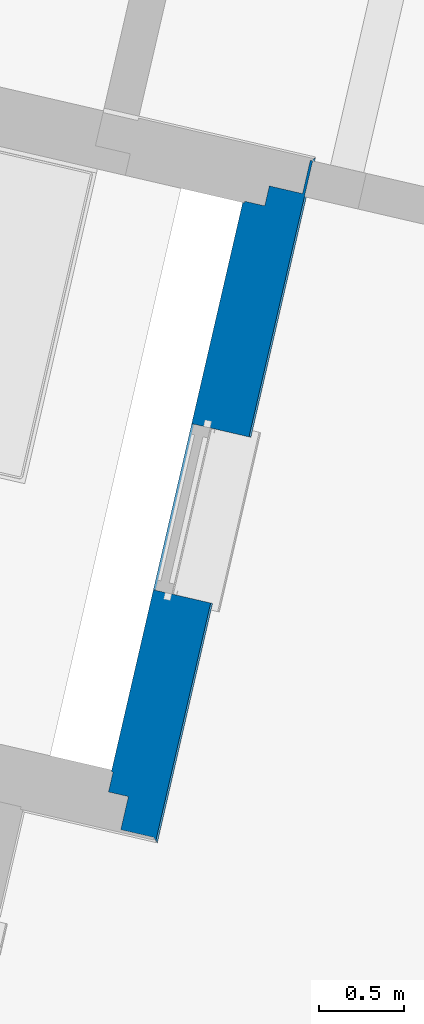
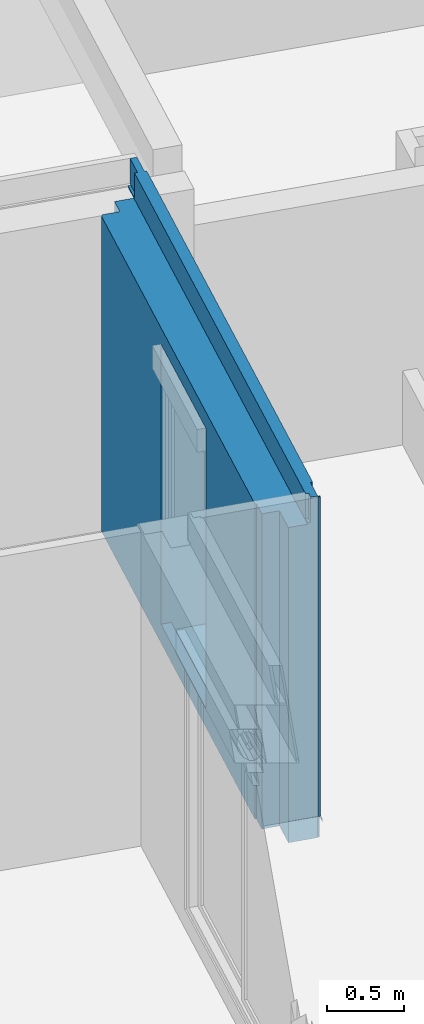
# One storey, part 54 of 119: 1 wall, 1 opening.
"""IFC2X3 building model written with IfcOpenShell, lengths in metres."""

from ifc_helpers import new_model, entity, si_unit, converted_unit, derived_unit, money_unit, direction, frame, origin_with_axes, place, context, subcontext, project, spatial, faceted_brep, material, material_list, type_object, element, save


model = new_model("IFC2X3")

# Units and contexts
model_context = context("Model", 3, precision=1e-05, world=origin_with_axes(), true_north=direction((0.0, 1.0)))
body_context = subcontext(model_context, "Body", "Model", "MODEL_VIEW")
ifc_project = project(units=[si_unit("LENGTHUNIT", "METRE"), si_unit("AREAUNIT", "SQUARE_METRE"), si_unit("VOLUMEUNIT", "CUBIC_METRE"), converted_unit("PLANEANGLEUNIT", "DEGREE", entity("IfcPlaneAngleMeasure", 0.0174532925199), si_unit("PLANEANGLEUNIT", "RADIAN"), dimensions=[0, 0, 0, 0, 0, 0, 0]), si_unit("SOLIDANGLEUNIT", "STERADIAN"), money_unit("EUR"), converted_unit("TIMEUNIT", "Year", entity("IfcTimeMeasure", 31556926.0), si_unit("TIMEUNIT", "SECOND"), dimensions=[0, 0, 1, 0, 0, 0, 0]), si_unit("MASSUNIT", "GRAM", prefix="KILO"), si_unit("THERMODYNAMICTEMPERATUREUNIT", "DEGREE_CELSIUS"), si_unit("LUMINOUSINTENSITYUNIT", "LUMEN"), si_unit("ENERGYUNIT", "JOULE", prefix="MEGA"), derived_unit("THERMALCONDUCTANCEUNIT", [(si_unit("POWERUNIT", "WATT"), 1), (si_unit("LENGTHUNIT", "METRE"), -1), (si_unit("THERMODYNAMICTEMPERATUREUNIT", "KELVIN"), -1)]), derived_unit("SPECIFICHEATCAPACITYUNIT", [(si_unit("ENERGYUNIT", "JOULE"), 1), (si_unit("MASSUNIT", "GRAM", prefix="KILO"), -1), (si_unit("THERMODYNAMICTEMPERATUREUNIT", "KELVIN"), -1)]), derived_unit("MASSDENSITYUNIT", [(si_unit("MASSUNIT", "GRAM", prefix="KILO"), 1), (si_unit("VOLUMEUNIT", "CUBIC_METRE"), -1)])], contexts=[model_context])

# Site, building, storey
site_placement = place(None, origin_with_axes())
site = spatial("IfcSite", under=ifc_project, at=site_placement, Name="Site", CompositionType="ELEMENT")
building_placement = place(site_placement, origin_with_axes())
building = spatial("IfcBuilding", under=site, at=building_placement, Name="Bâtiment", CompositionType="ELEMENT")
storey_placement = place(building_placement, origin_with_axes())
storey = spatial("IfcBuildingStorey", under=building, at=storey_placement, Name="Rez-de-chaussée", CompositionType="ELEMENT", Elevation=0.0)

# Wall, opening
ifc_material_1 = material(Name="Métal - Aluminium")
ifc_material_2 = material(Name="Finition ext - Crépis")
ifc_material_3 = material(Name="Etanchéité - Bitume")
ifc_material_4 = material(Name="Béton cellulaire")
ifc_material_5 = material(Name="Mortier")
ifc_material_6 = material(Name="Isolation - Polystyrène expansé")
ifc_material_7 = material(Name="Bloc ELITHERM")
ifc_material_8 = material(Name="Isolation - Polystyrène extrudé")
ifc_material_9 = material(Name="Finition int - Plaque de plâtre")
ifc_material_list = material_list([ifc_material_1, ifc_material_2, ifc_material_3, ifc_material_4, ifc_material_5, ifc_material_6, ifc_material_7, ifc_material_8, ifc_material_9])
wall_type = type_object("IfcWallType", Name="Mur ALKERN + planelle 21 TERRASSE RDC 356 x 2720", PredefinedType="USERDEFINED")
wall_placement = place(storey_placement, frame((-5.29603734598, -10.0953606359, 0.0), z_axis=(0.0, 0.0, 1.0), x_axis=(-0.224876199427, -0.974387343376, 0.0)))
wall = element("IfcWall", 1, at=wall_placement, inside=storey, type_object=wall_type, material=ifc_material_list, Name="Mue bloc ALKERN isolé", ObjectType="SOLIDWALL", context=body_context, shape_type="Brep", body=[
    faceted_brep([(2.6916498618, -0.0035607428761, 0.133633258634), (2.6916498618, -0.0035607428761, 0.15), (2.6916498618, -0.0035607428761, 0.162931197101), (4.13343926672, -0.0035607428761, 0.162931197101), (4.13343926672, -0.0035607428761, 0.133633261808), (2.6916498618, -0.00479482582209, 0.15), (2.6916498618, -0.00479482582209, 0.133633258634), (2.6916498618, -0.00479482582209, 0.161852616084), (2.6916498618, -0.03, 0.169414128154), (2.6916498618, -0.0310453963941, 0.169727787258), (2.6916498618, -0.0310453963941, 0.207793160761), (2.6916498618, -0.03, 0.207793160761), (2.6916498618, -0.0300000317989, 0.176532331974), (2.6916498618, -0.03, 0.170774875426), (4.10699999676, -0.03, 0.170774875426), (4.13343926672, -0.00479482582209, 0.161852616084), (4.13343926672, -0.00479482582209, 0.133633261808), (4.13343926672, -0.00839011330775, 0.162931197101), (4.11158675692, -0.03, 0.169414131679), (4.11052949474, -0.0310453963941, 0.169727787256), (4.10699999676, -0.0310453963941, 0.170774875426), (4.10699995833, -0.0310453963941, 0.176532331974), (4.10699995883, -0.0310453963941, 0.207793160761), (4.10699995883, -0.03, 0.207793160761), (4.10699995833, -0.0300000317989, 0.176532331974)], [[[0, 1, 2, 3, 4]], [[5, 1, 0, 6]], [[1, 5, 7, 8, 9, 10, 11, 12, 13, 2]], [[13, 14, 3, 2]], [[15, 16, 4, 3, 17]], [[6, 0, 4, 16]], [[5, 6, 16, 15, 7]], [[15, 17, 18, 8, 7]], [[8, 18, 19, 9]], [[20, 21, 22, 10, 9, 19]], [[10, 22, 23, 11]], [[11, 23, 24, 12]], [[12, 24, 14, 13]], [[17, 3, 14, 20, 19, 18]], [[20, 14, 24, 21]], [[22, 21, 24, 23]]]),
    faceted_brep([(1.6916498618, -0.00479482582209, 0.15), (1.6916498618, -0.0035607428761, 0.15), (1.6916498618, -0.0035607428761, 0.162931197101), (1.6916498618, -0.03, 0.170774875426), (1.6916498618, -0.0300000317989, 0.176532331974), (1.6916498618, -0.03, 0.207793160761), (1.6916498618, -0.0310453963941, 0.207793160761), (1.6916498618, -0.0310453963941, 0.16972778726), (1.6916498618, -0.03, 0.169414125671), (1.6916498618, -0.00479482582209, 0.161852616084), (1.6916498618, -0.0035607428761, 0.133633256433), (1.6916498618, -0.00479482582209, 0.133633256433), (0.00479482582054, -0.0035607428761, 0.133633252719), (0.00479482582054, -0.0035607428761, 0.161852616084), (0.0083901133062, -0.0035607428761, 0.162931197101), (0.0299999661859, -0.0254132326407, 0.169414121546), (0.0310453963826, -0.0264704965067, 0.169727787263), (0.0310453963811, -0.03, 0.170774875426), (0.0310453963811, -0.0300000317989, 0.176532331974), (0.0310453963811, -0.03, 0.207793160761), (0.0310453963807, -0.0310453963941, 0.207793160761), (0.0310453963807, -0.0310453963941, 0.169727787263), (0.0299999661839, -0.03, 0.169414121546), (0.00479482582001, -0.00479482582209, 0.161852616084), (0.00479482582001, -0.00479482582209, 0.133633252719)], [[[0, 1, 2, 3, 4, 5, 6, 7, 8, 9]], [[10, 1, 0, 11]], [[1, 10, 12, 13, 14, 2]], [[15, 16, 17, 3, 2, 14]], [[3, 17, 18, 4]], [[4, 18, 19, 5]], [[5, 19, 20, 6]], [[6, 20, 21, 7]], [[7, 21, 22, 8]], [[8, 22, 23, 9]], [[11, 0, 9, 23, 24]], [[10, 11, 24, 12]], [[12, 24, 23, 13]], [[23, 22, 15, 14, 13]], [[22, 21, 16, 15]], [[20, 19, 18, 17, 16, 21]]]),
    faceted_brep([(2.6916498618, -0.0150000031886, 0.176532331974), (2.6916498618, -0.0150000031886, 2.2), (1.6916498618, -0.0150000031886, 2.2), (1.6916498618, -0.0150000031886, 0.176532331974), (0.0300000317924, -0.0150000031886, 0.176532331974), (0.0300000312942, -0.0150000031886, 0.207793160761), (0.0299999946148, -0.0150000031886, 2.50955), (0.0299999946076, -0.0150000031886, 2.51), (0.229673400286, -0.0150000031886, 2.51), (0.244673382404, -0.0150000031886, 2.51), (0.244673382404, -0.0150000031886, 2.51999999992), (0.244673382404, -0.0150000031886, 2.72), (3.94699999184, -0.0150000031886, 2.72), (3.94699999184, -0.0150000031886, 2.51999999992), (3.94699999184, -0.0150000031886, 2.50955), (3.94699999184, -0.0150000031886, 2.50872065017), (3.94699999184, -0.0150000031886, 2.5), (3.96199999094, -0.0150000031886, 2.5), (3.98174097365, -0.0150000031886, 2.5), (4.10699999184, -0.0150000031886, 2.5), (4.10699999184, -0.0150000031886, 2.50872065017), (4.10699999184, -0.0150000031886, 2.50955), (4.10699999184, -0.0150000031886, 2.51999999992), (4.10699999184, -0.0150000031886, 2.72), (4.12199998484, -0.0150000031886, 2.72), (4.12199998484, -0.0150000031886, 0.176532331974), (2.6916498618, -0.0300000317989, 0.176532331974), (2.6916498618, -0.0299999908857, 2.2), (1.6916498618, -0.0299999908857, 2.2), (1.6916498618, -0.0300000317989, 0.176532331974), (0.0300000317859, -0.0300000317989, 0.176532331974), (0.0300000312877, -0.0300000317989, 0.207793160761), (0.0299999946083, -0.0300000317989, 2.50955), (0.0299999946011, -0.0300000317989, 2.51), (0.229673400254, -0.0300000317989, 2.51), (0.244673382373, -0.0300000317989, 2.51), (0.244673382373, -0.0300000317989, 2.51999999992), (0.244673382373, -0.0299999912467, 2.72), (3.94699999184, -0.0299999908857, 2.72), (3.94699999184, -0.0299999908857, 2.51999999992), (3.94699999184, -0.0299999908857, 2.50955), (3.94699999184, -0.0299999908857, 2.50872065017), (3.94699999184, -0.0299999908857, 2.5), (3.96199999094, -0.0299999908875, 2.5), (3.98174097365, -0.0299999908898, 2.5), (4.10699999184, -0.0299999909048, 2.5), (4.10699999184, -0.0299999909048, 2.50872065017), (4.10699999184, -0.0299999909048, 2.50955), (4.10699999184, -0.0299999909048, 2.51999999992), (4.10699999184, -0.0299999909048, 2.72), (4.12199998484, -0.0299999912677, 2.72), (4.12199998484, -0.0300000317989, 0.176532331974)], [[[0, 1, 2, 3, 4, 5, 6, 7, 8, 9, 10, 11, 12, 13, 14, 15, 16, 17, 18, 19, 20, 21, 22, 23, 24, 25]], [[1, 0, 26, 27]], [[2, 1, 27, 28]], [[3, 2, 28, 29]], [[3, 29, 30, 4]], [[31, 5, 4, 30]], [[32, 6, 5, 31]], [[33, 7, 6, 32]], [[34, 8, 7, 33]], [[9, 8, 34, 35]], [[36, 10, 9, 35]], [[37, 11, 10, 36]], [[11, 37, 38, 12]], [[13, 12, 38, 39]], [[13, 39, 40, 14]], [[14, 40, 41, 15]], [[15, 41, 42, 16]], [[43, 17, 16, 42]], [[44, 18, 17, 43]], [[19, 18, 44, 45]], [[46, 20, 19, 45]], [[47, 21, 20, 46]], [[48, 22, 21, 47]], [[49, 23, 22, 48]], [[23, 49, 50, 24]], [[51, 25, 24, 50]], [[26, 0, 25, 51]], [[27, 26, 51, 50, 49, 48, 47, 46, 45, 44, 43, 42, 41, 40, 39, 38, 37, 36, 35, 34, 33, 32, 31, 30, 29, 28]]]),
    faceted_brep([(1.6916498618, -0.0299999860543, 0.15), (1.6916498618, -0.02, 0.15), (1.6916498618, -0.02, 0.160000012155), (1.6916498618, -0.0300000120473, 0.160000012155), (1.6916498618, -0.02, 0.09), (1.6916498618, -0.0299999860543, 0.09), (2.6916498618, -0.02, 0.09), (2.6916498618, -0.02, 0.15), (2.6916498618, -0.02, 0.16000001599), (4.11700000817, -0.02, 0.160000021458), (4.11700000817, -0.02, 0.133633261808), (4.1169999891, -0.02, 0.01), (0.244999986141, -0.02, 0.01), (0.244999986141, -0.02, 0.0), (0.0300000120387, -0.02, 0.0), (0.0300000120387, -0.02, 0.133633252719), (0.0300000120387, -0.02, 0.160000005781), (0.0300000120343, -0.0300000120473, 0.160000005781), (0.0300000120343, -0.0300000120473, 0.133633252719), (0.0300000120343, -0.0300000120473, 0.0), (0.244999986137, -0.0299999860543, 0.0), (0.244999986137, -0.0299999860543, 0.01), (4.1169999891, -0.0300000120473, 0.01), (4.11700000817, -0.0300000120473, 0.133633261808), (4.11700000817, -0.0300000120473, 0.160000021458), (2.6916498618, -0.0300000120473, 0.16000001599), (2.6916498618, -0.0299999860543, 0.15), (2.6916498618, -0.0299999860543, 0.09)], [[[0, 1, 2, 3]], [[4, 1, 0, 5]], [[6, 7, 8, 9, 10, 11, 12, 13, 14, 15, 16, 2, 1, 4]], [[2, 16, 17, 3]], [[5, 0, 3, 17, 18, 19, 20, 21, 22, 23, 24, 25, 26, 27]], [[6, 4, 5, 27]], [[26, 7, 6, 27]], [[7, 26, 25, 8]], [[25, 24, 9, 8]], [[9, 24, 23, 10]], [[10, 23, 22, 11]], [[21, 12, 11, 22]], [[21, 20, 13, 12]], [[19, 14, 13, 20]], [[15, 14, 19, 18]], [[16, 15, 18, 17]]]),
    faceted_brep([(4.10699999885, -0.0780000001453, 2.72), (4.10699999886, -0.03, 2.72), (0.0780000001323, -0.03, 2.72), (0.0780000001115, -0.0780000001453, 2.72), (4.10699999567, -0.03, 2.51999999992), (4.10699999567, -0.0780000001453, 2.51999999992), (0.0780000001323, -0.03, 2.51999999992), (0.0780000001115, -0.0780000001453, 2.51999999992)], [[[0, 1, 2, 3]], [[4, 1, 0, 5]], [[1, 4, 6, 2]], [[3, 2, 6, 7]], [[5, 0, 3, 7]], [[4, 5, 7, 6]]]),
    faceted_brep([(4.10699999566, -0.098, 2.51999999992), (4.10699999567, -0.03, 2.51999999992), (0.097999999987, -0.03, 2.52), (0.0979999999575, -0.098, 2.52), (4.1069999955, -0.03, 2.50955), (4.1069999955, -0.098, 2.50955), (0.097999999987, -0.03, 2.50955), (0.0979999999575, -0.098, 2.50955)], [[[0, 1, 2, 3]], [[4, 1, 0, 5]], [[1, 4, 6, 2]], [[3, 2, 6, 7]], [[5, 0, 3, 7]], [[4, 5, 7, 6]]]),
    faceted_brep([(4.05899998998, -0.0780000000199, 2.51999999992), (0.244673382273, -0.0780000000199, 2.51999999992), (0.244673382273, -0.0780000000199, 2.72), (4.05899998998, -0.0780000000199, 2.72), (4.05899998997, -0.0980000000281, 2.51999999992), (0.244673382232, -0.0980000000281, 2.51999999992), (0.244673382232, -0.0980000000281, 2.72), (4.05899998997, -0.0980000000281, 2.72)], [[[0, 1, 2, 3]], [[4, 5, 1, 0]], [[5, 6, 2, 1]], [[3, 2, 6, 7]], [[4, 0, 3, 7]], [[7, 6, 5, 4]]]),
    faceted_brep([(1.6916498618, -0.229999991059, 0.15), (1.6916498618, -0.0300000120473, 0.15), (1.6916498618, -0.0300000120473, 0.160000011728), (1.6916498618, -0.03, 0.169414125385), (1.6916498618, -0.0310453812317, 0.169727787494), (1.6916498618, -0.0310453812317, 0.207793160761), (1.6916498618, -0.03, 0.207793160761), (1.6916498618, -0.03, 2.2), (1.6916498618, -0.218560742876, 2.2), (1.6916498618, -0.229999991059, 2.2), (1.6916498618, -0.0300000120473, 0.09), (1.6916498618, -0.229999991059, 0.09), (2.6916498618, -0.0300000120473, 0.09), (2.6916498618, -0.0300000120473, 0.15), (2.6916498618, -0.0300000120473, 0.160000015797), (4.10699998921, -0.0300000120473, 0.160000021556), (4.10699997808, -0.0300000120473, 0.133633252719), (4.10699997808, -0.03, 0.0), (0.229999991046, -0.03, 0.0), (0.229999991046, -0.0300000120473, 0.133633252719), (0.229999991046, -0.0300000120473, 0.160000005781), (0.229999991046, -0.03, 0.169414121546), (0.229999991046, -0.0310453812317, 0.169727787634), (0.229999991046, -0.0310453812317, 0.207793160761), (0.229999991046, -0.0310453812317, 0.176532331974), (0.229999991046, -0.03, 0.207793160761), (0.229999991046, -0.03, 2.50955001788), (4.1069999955, -0.03, 2.50955), (4.10699995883, -0.03, 0.207793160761), (2.6916498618, -0.03, 0.207793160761), (2.6916498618, -0.03, 2.2), (2.6916498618, -0.218560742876, 2.2), (1.6916498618, -0.218560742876, 2.38), (1.6916498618, -0.229999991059, 2.38), (0.22999999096, -0.229999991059, 0.160000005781), (0.22999999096, -0.229999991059, 0.133633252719), (0.22999999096, -0.229999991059, 0.0), (4.10699997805, -0.229999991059, 0.0), (4.10699997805, -0.229999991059, 0.133633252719), (4.10699998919, -0.229999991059, 0.160000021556), (4.10699999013, -0.229999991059, 0.169414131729), (4.10595459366, -0.229999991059, 0.169727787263), (4.10595459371, -0.229999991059, 0.176532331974), (4.10595459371, -0.229999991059, 0.207793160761), (4.1069999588, -0.229999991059, 0.207793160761), (4.10699999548, -0.229999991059, 2.50955), (0.22999999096, -0.229999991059, 2.50955001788), (0.22999999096, -0.229999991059, 0.207793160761), (0.22999999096, -0.229999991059, 0.176532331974), (0.22999999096, -0.229999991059, 0.169414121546), (2.6916498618, -0.229999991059, 2.38), (2.6916498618, -0.229999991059, 2.2), (2.6916498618, -0.229999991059, 0.15), (2.6916498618, -0.229999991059, 0.09), (2.6916498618, -0.0310453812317, 0.207793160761), (2.6916498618, -0.0310453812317, 0.169727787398), (2.6916498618, -0.03, 0.169414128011), (4.10699999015, -0.03, 0.169414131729), (0.229999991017, -0.0979999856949, 2.50955001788), (4.1069999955, -0.0979999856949, 2.50955), (4.10699995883, -0.0310453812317, 0.207793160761), (4.10595459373, -0.0310453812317, 0.207793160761), (2.6916498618, -0.218560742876, 2.38), (4.10595459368, -0.0310453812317, 0.169727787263), (4.10595459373, -0.0310453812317, 0.176532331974)], [[[0, 1, 2, 3, 4, 5, 6, 7, 8, 9]], [[10, 1, 0, 11]], [[12, 13, 14, 15, 16, 17, 18, 19, 20, 2, 1, 10]], [[20, 21, 3, 2]], [[21, 22, 4, 3]], [[23, 5, 4, 22, 24]], [[23, 25, 6, 5]], [[7, 6, 25, 26, 27, 28, 29, 30]], [[8, 7, 30, 31]], [[8, 32, 33, 9]], [[34, 35, 36, 37, 38, 39, 40, 41, 42, 43, 44, 45, 46, 47, 48, 49], [11, 0, 9, 33, 50, 51, 52, 53]], [[12, 10, 11, 53]], [[52, 13, 12, 53]], [[13, 52, 51, 31, 30, 29, 54, 55, 56, 14]], [[57, 15, 14, 56]], [[16, 15, 39, 38]], [[37, 17, 16, 38]], [[18, 17, 37, 36]], [[36, 35, 19, 18]], [[20, 19, 35, 34]], [[21, 20, 34, 49]], [[48, 24, 22, 21, 49]], [[23, 24, 48, 47]], [[26, 25, 23, 47, 46, 58]], [[26, 58, 59, 27]], [[59, 45, 44, 60, 28, 27]], [[61, 54, 29, 28, 60]], [[31, 62, 32, 8]], [[33, 32, 62, 50]], [[39, 15, 57, 40]], [[63, 41, 40, 57]], [[63, 64, 42, 41]], [[42, 64, 61, 43]], [[43, 61, 60, 44]], [[58, 46, 45, 59]], [[51, 50, 62, 31]], [[63, 55, 54, 61, 64]], [[63, 57, 56, 55]]]),
    faceted_brep([(1.6916498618, -0.248560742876, 0.15), (1.6916498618, -0.22999997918, 0.15), (1.6916498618, -0.22999997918, 2.2), (1.6916498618, -0.248560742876, 2.2), (1.6916498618, -0.22999997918, 0.09), (1.6916498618, -0.289560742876, 0.15), (1.6916498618, -0.289560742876, 0.09), (3.90699999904, -0.22999997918, 0.207793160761), (3.90699999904, -0.22999997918, 0.176532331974), (3.90699999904, -0.22999997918, 0.169414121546), (3.90699999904, -0.22999997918, 0.160000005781), (3.90699999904, -0.22999997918, 0.133633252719), (3.90699999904, -0.22999997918, 0.0), (0.350000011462, -0.22999997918, 0.0), (0.350000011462, -0.22999997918, 0.133633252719), (0.350000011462, -0.22999997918, 0.160000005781), (0.350000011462, -0.22999997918, 0.169414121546), (0.350000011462, -0.22999997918, 0.176532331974), (0.350000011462, -0.22999997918, 0.207793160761), (0.350000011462, -0.22999997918, 2.50955001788), (3.90699999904, -0.22999997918, 2.50955001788), (2.6916498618, -0.22999997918, 0.09), (2.6916498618, -0.22999997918, 0.15), (2.6916498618, -0.22999997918, 2.2), (2.6916498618, -0.22999997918, 2.38), (1.6916498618, -0.22999997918, 2.38), (1.6916498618, -0.350000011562, 2.38), (1.6916498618, -0.350000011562, 2.2), (1.6916498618, -0.350000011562, 0.15), (2.6916498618, -0.289560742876, 0.15), (2.6916498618, -0.289560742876, 0.09), (3.90699999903, -0.350000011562, 0.207793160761), (3.90699999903, -0.350000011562, 0.176532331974), (3.90699999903, -0.350000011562, 0.169414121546), (3.90699999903, -0.350000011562, 0.160000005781), (3.90699999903, -0.350000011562, 0.133633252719), (3.90699999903, -0.350000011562, 0.0), (0.35000001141, -0.350000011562, 0.0), (0.35000001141, -0.350000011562, 0.133633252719), (0.35000001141, -0.350000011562, 0.160000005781), (0.35000001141, -0.350000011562, 0.169414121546), (0.35000001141, -0.350000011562, 0.176532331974), (0.35000001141, -0.350000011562, 0.207793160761), (0.35000001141, -0.350000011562, 2.50955001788), (3.90699999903, -0.350000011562, 2.50955001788), (2.6916498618, -0.248560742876, 0.15), (2.6916498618, -0.248560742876, 2.2), (2.6916498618, -0.350000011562, 2.2), (2.6916498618, -0.350000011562, 2.38), (2.6916498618, -0.350000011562, 0.15)], [[[0, 1, 2, 3]], [[4, 1, 0, 5, 6]], [[7, 8, 9, 10, 11, 12, 13, 14, 15, 16, 17, 18, 19, 20], [21, 22, 23, 24, 25, 2, 1, 4]], [[26, 27, 3, 2, 25]], [[5, 0, 3, 27, 28]], [[5, 29, 30, 6]], [[21, 4, 6, 30]], [[8, 7, 31, 32]], [[33, 9, 8, 32]], [[10, 9, 33, 34]], [[35, 11, 10, 34]], [[12, 11, 35, 36]], [[37, 13, 12, 36]], [[37, 38, 14, 13]], [[38, 39, 15, 14]], [[16, 15, 39, 40]], [[40, 41, 17, 16]], [[18, 17, 41, 42]], [[19, 18, 42, 43]], [[43, 44, 20, 19]], [[31, 7, 20, 44]], [[45, 22, 21, 30, 29]], [[22, 45, 46, 23]], [[46, 47, 48, 24, 23]], [[24, 48, 26, 25]], [[44, 43, 42, 41, 40, 39, 38, 37, 36, 35, 34, 33, 32, 31], [28, 27, 26, 48, 47, 49]], [[29, 5, 28, 49]], [[45, 29, 49, 47, 46]]]),
    faceted_brep([(0.359999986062, -0.350000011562, 0.0), (0.359999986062, -0.350000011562, 0.133633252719), (0.359999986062, -0.350000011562, 0.160000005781), (0.359999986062, -0.350000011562, 0.169414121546), (0.359999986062, -0.350000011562, 0.176532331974), (0.359999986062, -0.350000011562, 0.207793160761), (0.359999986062, -0.350000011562, 2.50955001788), (3.78699997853, -0.350000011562, 2.50955001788), (3.78699997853, -0.350000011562, 0.207793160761), (3.78699997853, -0.350000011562, 0.176532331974), (3.78699997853, -0.350000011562, 0.169414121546), (3.78699997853, -0.350000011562, 0.160000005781), (3.78699997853, -0.350000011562, 0.133633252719), (3.78699997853, -0.350000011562, 0.0), (2.6916498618, -0.350000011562, 2.2), (2.6916498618, -0.350000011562, 2.38), (1.6916498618, -0.350000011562, 2.38), (1.6916498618, -0.350000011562, 2.2), (1.6916498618, -0.350000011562, 0.15), (2.6916498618, -0.350000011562, 0.15), (0.359999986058, -0.359999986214, 0.133633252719), (0.359999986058, -0.359999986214, 0.0), (0.359999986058, -0.359999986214, 0.160000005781), (0.359999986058, -0.359999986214, 0.169414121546), (0.359999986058, -0.359999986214, 0.176532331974), (0.359999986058, -0.359999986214, 0.207793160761), (0.359999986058, -0.359999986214, 2.50955001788), (3.78699997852, -0.359999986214, 2.50955001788), (3.78699997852, -0.359999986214, 0.207793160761), (3.78699997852, -0.359999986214, 0.176532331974), (3.78699997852, -0.359999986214, 0.169414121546), (3.78699997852, -0.359999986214, 0.160000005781), (3.78699997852, -0.359999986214, 0.133633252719), (3.78699997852, -0.359999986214, 0.0), (2.6916498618, -0.359999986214, 2.2), (2.6916498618, -0.359999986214, 2.38), (1.6916498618, -0.359999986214, 2.38), (1.6916498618, -0.359999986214, 2.2), (1.6916498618, -0.359999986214, 0.15), (2.6916498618, -0.359999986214, 0.15)], [[[0, 1, 2, 3, 4, 5, 6, 7, 8, 9, 10, 11, 12, 13], [14, 15, 16, 17, 18, 19]], [[20, 1, 0, 21]], [[1, 20, 22, 2]], [[2, 22, 23, 3]], [[3, 23, 24, 4]], [[4, 24, 25, 5]], [[5, 25, 26, 6]], [[7, 6, 26, 27]], [[7, 27, 28, 8]], [[28, 29, 9, 8]], [[30, 10, 9, 29]], [[30, 31, 11, 10]], [[32, 12, 11, 31]], [[32, 33, 13, 12]], [[21, 0, 13, 33]], [[15, 14, 34, 35]], [[16, 15, 35, 36]], [[17, 16, 36, 37]], [[17, 37, 38, 18]], [[18, 38, 39, 19]], [[34, 14, 19, 39]], [[20, 21, 33, 32, 31, 30, 29, 28, 27, 26, 25, 24, 23, 22], [35, 34, 39, 38, 37, 36]]]),
])
opening_placement = place(wall_placement, frame((2.1916498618, 0.0, 0.15), z_axis=(0.0, 0.0, 1.0), x_axis=(1.0, 0.0, 0.0)))
element("IfcOpeningElement", 2, at=opening_placement, cuts=wall, Name="MEN 31", context=body_context, shape_type="Brep", body=[
    faceted_brep([(-0.5, -0.248560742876, 0.0), (0.5, -0.248560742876, 0.0), (0.5, -0.849999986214, 0.0), (-0.5, -0.849999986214, 0.0), (-0.5, -0.248560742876, 2.05), (0.5, -0.248560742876, 2.05), (0.5, -0.849999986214, 2.05), (-0.5, -0.849999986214, 2.05)], [[[0, 1, 2, 3]], [[0, 4, 5, 1]], [[1, 5, 6, 2]], [[3, 2, 6, 7]], [[4, 0, 3, 7]], [[5, 4, 7, 6]]]),
    faceted_brep([(-0.5, -0.248560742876, 0.0), (-0.5, -0.248560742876, 2.05), (-0.5, 0.352878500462, 2.05), (-0.5, 0.352878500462, 0.0), (0.5, -0.248560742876, 0.0), (0.5, -0.248560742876, 2.05), (0.5, 0.352878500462, 2.05), (0.5, 0.352878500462, 0.0)], [[[0, 1, 2, 3]], [[0, 4, 5, 1]], [[1, 5, 6, 2]], [[3, 2, 6, 7]], [[4, 0, 3, 7]], [[5, 4, 7, 6]]]),
    faceted_brep([(-0.5, -0.248560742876, 0.0), (-0.5, -0.248560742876, 2.05), (-0.5, 0.352878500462, 2.05), (-0.5, 0.352878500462, 0.0), (0.5, -0.248560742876, 0.0), (0.5, -0.248560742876, 2.05), (0.5, 0.352878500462, 2.05), (0.5, 0.352878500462, 0.0)], [[[0, 1, 2, 3]], [[0, 4, 5, 1]], [[1, 5, 6, 2]], [[3, 2, 6, 7]], [[4, 0, 3, 7]], [[5, 4, 7, 6]]]),
    faceted_brep([(-0.5, -0.218560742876, 2.05), (0.5, -0.218560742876, 2.05), (0.5, -0.819999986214, 2.05), (-0.5, -0.819999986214, 2.05), (-0.5, -0.218560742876, 2.23), (0.5, -0.218560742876, 2.23), (0.5, -0.819999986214, 2.23), (-0.5, -0.819999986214, 2.23)], [[[0, 1, 2, 3]], [[0, 4, 5, 1]], [[1, 5, 6, 2]], [[3, 2, 6, 7]], [[4, 0, 3, 7]], [[5, 4, 7, 6]]]),
    faceted_brep([(-0.5, -0.289560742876, 0.0), (0.5, -0.289560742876, 0.0), (0.5, 0.311878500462, 0.0), (-0.5, 0.311878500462, 0.0), (-0.5, -0.289560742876, -0.06), (0.5, -0.289560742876, -0.06), (0.5, 0.311878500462, -0.06), (-0.5, 0.311878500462, -0.06)], [[[0, 1, 2, 3]], [[0, 4, 5, 1]], [[1, 5, 6, 2]], [[3, 2, 6, 7]], [[4, 0, 3, 7]], [[5, 4, 7, 6]]]),
])

save(model, "model.ifc")
